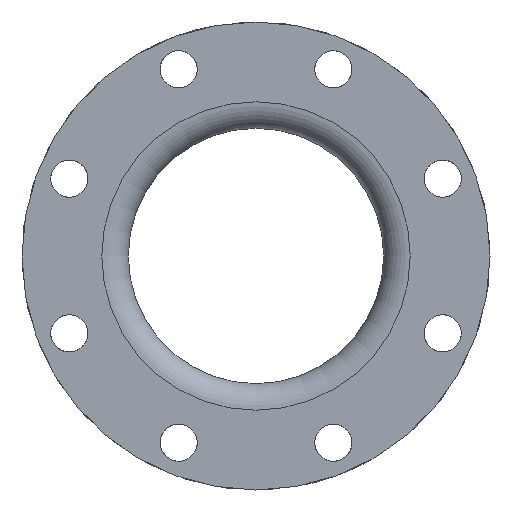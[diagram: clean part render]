
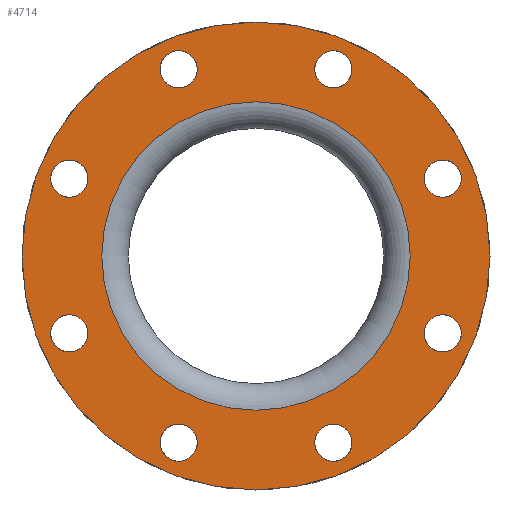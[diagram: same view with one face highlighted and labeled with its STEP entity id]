
A CAD part, front view. The second image highlights one B-rep face of the part: STEP entity #4714.
In plain terms, the highlighted planar face has unit normal (0, -1, 0).
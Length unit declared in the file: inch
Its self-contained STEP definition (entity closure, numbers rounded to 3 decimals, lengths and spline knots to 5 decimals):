
#142=FACE_BOUND('',#958,.T.);
#143=FACE_BOUND('',#959,.T.);
#144=FACE_BOUND('',#960,.T.);
#145=FACE_BOUND('',#961,.T.);
#146=FACE_BOUND('',#962,.T.);
#147=FACE_BOUND('',#963,.T.);
#148=FACE_BOUND('',#964,.T.);
#149=FACE_BOUND('',#965,.T.);
#150=FACE_BOUND('',#966,.T.);
#584=FACE_OUTER_BOUND('',#957,.T.);
#957=EDGE_LOOP('',(#4135));
#958=EDGE_LOOP('',(#4136));
#959=EDGE_LOOP('',(#4137));
#960=EDGE_LOOP('',(#4138));
#961=EDGE_LOOP('',(#4139));
#962=EDGE_LOOP('',(#4140));
#963=EDGE_LOOP('',(#4141));
#964=EDGE_LOOP('',(#4142));
#965=EDGE_LOOP('',(#4143));
#966=EDGE_LOOP('',(#4144));
#1783=CIRCLE('',#5296,0.4375);
#1785=CIRCLE('',#5299,0.4375);
#1787=CIRCLE('',#5302,0.4375);
#1789=CIRCLE('',#5305,0.4375);
#1791=CIRCLE('',#5308,0.4375);
#1793=CIRCLE('',#5311,0.4375);
#1795=CIRCLE('',#5314,0.4375);
#1797=CIRCLE('',#5317,0.4375);
#1824=CIRCLE('',#5362,5.5);
#1825=CIRCLE('',#5364,3.625);
#2226=VERTEX_POINT('',#8099);
#2228=VERTEX_POINT('',#8104);
#2230=VERTEX_POINT('',#8109);
#2232=VERTEX_POINT('',#8114);
#2234=VERTEX_POINT('',#8119);
#2236=VERTEX_POINT('',#8124);
#2238=VERTEX_POINT('',#8129);
#2240=VERTEX_POINT('',#8134);
#2267=VERTEX_POINT('',#8206);
#2268=VERTEX_POINT('',#8209);
#2852=EDGE_CURVE('',#2226,#2226,#1783,.T.);
#2854=EDGE_CURVE('',#2228,#2228,#1785,.T.);
#2856=EDGE_CURVE('',#2230,#2230,#1787,.T.);
#2858=EDGE_CURVE('',#2232,#2232,#1789,.T.);
#2860=EDGE_CURVE('',#2234,#2234,#1791,.T.);
#2862=EDGE_CURVE('',#2236,#2236,#1793,.T.);
#2864=EDGE_CURVE('',#2238,#2238,#1795,.T.);
#2866=EDGE_CURVE('',#2240,#2240,#1797,.T.);
#2893=EDGE_CURVE('',#2267,#2267,#1824,.T.);
#2894=EDGE_CURVE('',#2268,#2268,#1825,.T.);
#4135=ORIENTED_EDGE('',*,*,#2893,.T.);
#4136=ORIENTED_EDGE('',*,*,#2852,.T.);
#4137=ORIENTED_EDGE('',*,*,#2854,.T.);
#4138=ORIENTED_EDGE('',*,*,#2856,.T.);
#4139=ORIENTED_EDGE('',*,*,#2858,.T.);
#4140=ORIENTED_EDGE('',*,*,#2860,.T.);
#4141=ORIENTED_EDGE('',*,*,#2862,.T.);
#4142=ORIENTED_EDGE('',*,*,#2864,.T.);
#4143=ORIENTED_EDGE('',*,*,#2866,.T.);
#4144=ORIENTED_EDGE('',*,*,#2894,.F.);
#4210=PLANE('',#5363);
#4714=ADVANCED_FACE('',(#584,#142,#143,#144,#145,#146,#147,#148,#149,#150),
#4210,.T.);
#5296=AXIS2_PLACEMENT_3D('',#8100,#6751,#6752);
#5299=AXIS2_PLACEMENT_3D('',#8105,#6757,#6758);
#5302=AXIS2_PLACEMENT_3D('',#8110,#6763,#6764);
#5305=AXIS2_PLACEMENT_3D('',#8115,#6769,#6770);
#5308=AXIS2_PLACEMENT_3D('',#8120,#6775,#6776);
#5311=AXIS2_PLACEMENT_3D('',#8125,#6781,#6782);
#5314=AXIS2_PLACEMENT_3D('',#8130,#6787,#6788);
#5317=AXIS2_PLACEMENT_3D('',#8135,#6793,#6794);
#5362=AXIS2_PLACEMENT_3D('',#8207,#6883,#6884);
#5363=AXIS2_PLACEMENT_3D('',#8208,#6885,#6886);
#5364=AXIS2_PLACEMENT_3D('',#8210,#6887,#6888);
#6751=DIRECTION('center_axis',(0.,1.,0.));
#6752=DIRECTION('ref_axis',(0.707,0.,0.707));
#6757=DIRECTION('center_axis',(0.,1.,0.));
#6758=DIRECTION('ref_axis',(1.,0.,0.));
#6763=DIRECTION('center_axis',(0.,1.,0.));
#6764=DIRECTION('ref_axis',(0.707,0.,-0.707));
#6769=DIRECTION('center_axis',(0.,1.,0.));
#6770=DIRECTION('ref_axis',(0.,0.,
-1.));
#6775=DIRECTION('center_axis',(0.,1.,0.));
#6776=DIRECTION('ref_axis',(-0.707,0.,-0.707));
#6781=DIRECTION('center_axis',(0.,1.,0.));
#6782=DIRECTION('ref_axis',(-1.,0.,0.));
#6787=DIRECTION('center_axis',(0.,1.,0.));
#6788=DIRECTION('ref_axis',(-0.707,0.,0.707));
#6793=DIRECTION('center_axis',(0.,1.,0.));
#6794=DIRECTION('ref_axis',(0.,0.,1.));
#6883=DIRECTION('center_axis',(0.,-1.,0.));
#6884=DIRECTION('ref_axis',(1.,0.,0.));
#6885=DIRECTION('center_axis',(0.,-1.,0.));
#6886=DIRECTION('ref_axis',(0.,0.,-1.));
#6887=DIRECTION('center_axis',(0.,-1.,0.));
#6888=DIRECTION('ref_axis',(1.,0.,0.));
#8099=CARTESIAN_POINT('',(4.07907,-12.,-2.12711));
#8100=CARTESIAN_POINT('Origin',(4.38843,-12.,-1.81775));
#8104=CARTESIAN_POINT('',(1.38025,-12.,-4.38843));
#8105=CARTESIAN_POINT('Origin',(1.81775,-12.,-4.38843));
#8109=CARTESIAN_POINT('',(-2.12711,-12.,-4.07907));
#8110=CARTESIAN_POINT('Origin',(-1.81775,-12.,-4.38843));
#8114=CARTESIAN_POINT('',(-4.38843,-12.,-1.38025));
#8115=CARTESIAN_POINT('Origin',(-4.38843,-12.,-1.81775));
#8119=CARTESIAN_POINT('',(-4.07907,-12.,2.12711));
#8120=CARTESIAN_POINT('Origin',(-4.38843,-12.,1.81775));
#8124=CARTESIAN_POINT('',(-1.38025,-12.,4.38843));
#8125=CARTESIAN_POINT('Origin',(-1.81775,-12.,4.38843));
#8129=CARTESIAN_POINT('',(2.12711,-12.,4.07907));
#8130=CARTESIAN_POINT('Origin',(1.81775,-12.,4.38843));
#8134=CARTESIAN_POINT('',(4.38843,-12.,1.38025));
#8135=CARTESIAN_POINT('Origin',(4.38843,-12.,1.81775));
#8206=CARTESIAN_POINT('',(5.5,-12.,0.));
#8207=CARTESIAN_POINT('Origin',(0.,-12.,0.));
#8208=CARTESIAN_POINT('Origin',(4.5625,-12.,0.));
#8209=CARTESIAN_POINT('',(3.625,-12.,0.));
#8210=CARTESIAN_POINT('Origin',(0.,-12.,0.));
